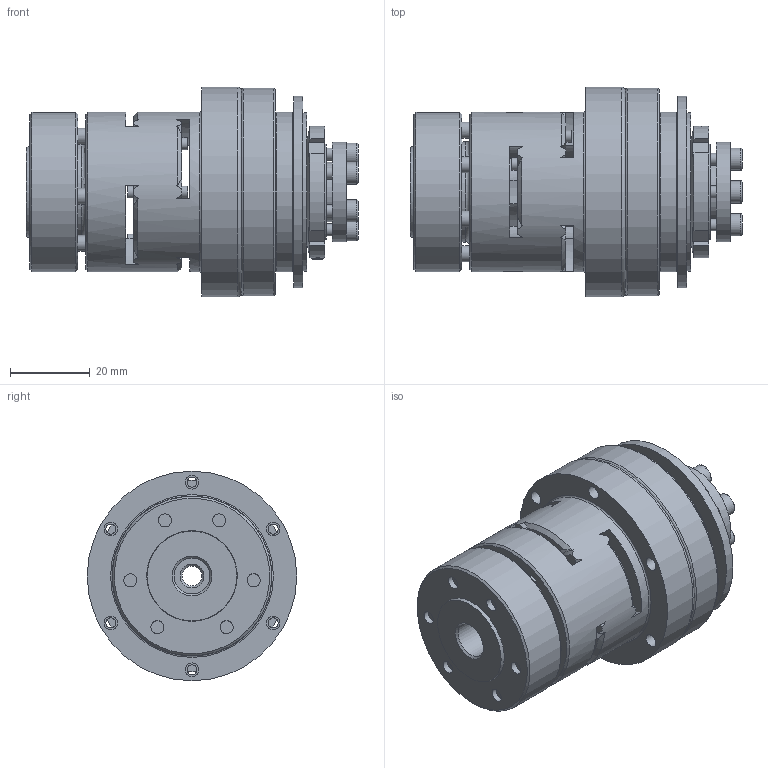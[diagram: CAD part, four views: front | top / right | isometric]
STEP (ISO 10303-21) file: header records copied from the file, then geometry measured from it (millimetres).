
FILE_DESCRIPTION( ( 'Unknown' ), '1' );
FILE_NAME( 'F:/JAKOB-STEP+IGES-Dateien/STEP-Dateien/SKY-ES/SKY-ES 12.stp', 'Unknown', ( 'Unknown' ), ( 'Unknown' ), 'PSStep 10.1', 'Unknown', ' ' );
FILE_SCHEMA( ( 'AUTOMOTIVE_DESIGN { 1 0 10303 214 1 1 1 1 }' ) );
Length unit declared in the file: millimetre
Products named in the file (1): kt102464
Bounding box: 83.2 x 52.5 x 52.5 mm (x, y, z)
Volume: 87570.7 mm3; surface area: 41035.1 mm2
Topology: 1 solids, 10 shells, 623 faces, 1645 edges, 1062 vertices
Faces by surface type: plane 285, cylinder 178, cone 93, torus 57, sphere 10
Full cylindrical faces by diameter (mm): 1.5 x2, 2.5 x16, 3 x13, 3.3 x9, 3.4 x12, 4 x6, 4.3 x6, 5 x1, 5.5 x6, 7 x6, 7.5 x6, 9 x1, 9.5 x1, 12 x1, 15 x1, 18 x2, 19 x1, 19.9 x1, 20 x2, 22 x1, 24 x1, 25 x3, 25.1 x1, 25.2 x1, 25.5 x1, 27.2 x2, 28 x1, 35.1 x2, 37.6 x2, 37.9 x2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
Entity records: 23378 total; most frequent: CARTESIAN_POINT 4486, DIRECTION 2944, ORIENTED_EDGE 2550, EDGE_CURVE 1275, AXIS2_PLACEMENT_3D 1236, EDGE_LOOP 960, VERTEX_POINT 924, FACE_OUTER_BOUND 768
